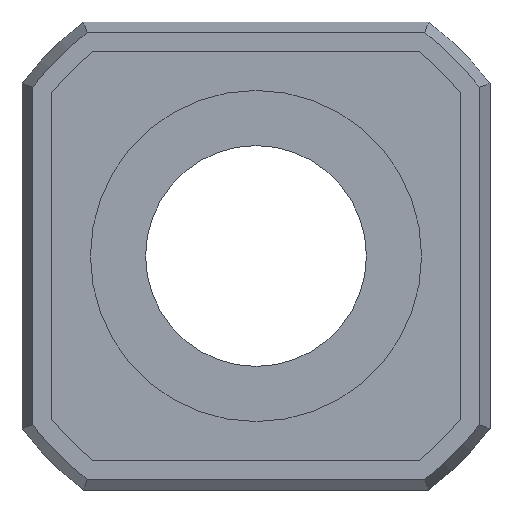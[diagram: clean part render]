
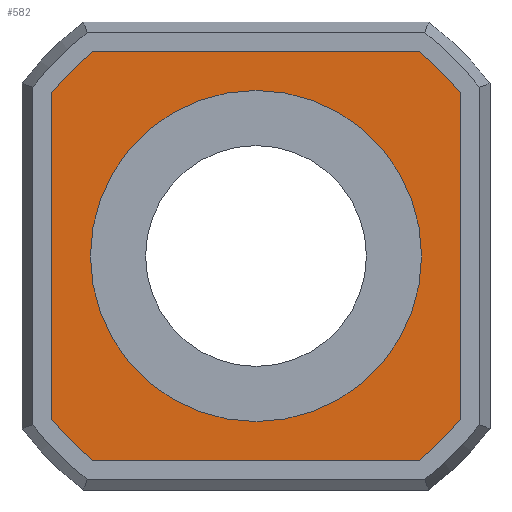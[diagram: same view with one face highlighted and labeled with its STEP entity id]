
A CAD part, front view. The second image highlights one B-rep face of the part: STEP entity #582.
In plain terms, the highlighted planar face has unit normal (0, -1, 0).
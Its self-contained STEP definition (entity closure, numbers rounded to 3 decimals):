
#33=FACE_BOUND('',#127,.T.);
#46=PLANE('',#669);
#88=FACE_OUTER_BOUND('',#126,.T.);
#126=EDGE_LOOP('',(#500,#501,#502,#503,#504,#505,#506,#507));
#127=EDGE_LOOP('',(#508));
#147=LINE('',#917,#183);
#155=LINE('',#953,#191);
#161=LINE('',#981,#197);
#164=LINE('',#994,#200);
#183=VECTOR('',#736,10.);
#191=VECTOR('',#762,10.);
#197=VECTOR('',#784,10.);
#200=VECTOR('',#803,10.);
#216=CIRCLE('',#625,4.25);
#219=CIRCLE('',#631,7.109);
#224=CIRCLE('',#641,7.109);
#228=CIRCLE('',#649,7.109);
#232=CIRCLE('',#658,7.109);
#248=VERTEX_POINT('',#878);
#253=VERTEX_POINT('',#896);
#255=VERTEX_POINT('',#899);
#260=VERTEX_POINT('',#915);
#266=VERTEX_POINT('',#937);
#270=VERTEX_POINT('',#951);
#274=VERTEX_POINT('',#965);
#278=VERTEX_POINT('',#979);
#280=VERTEX_POINT('',#990);
#304=EDGE_CURVE('',#248,#248,#216,.T.);
#310=EDGE_CURVE('',#255,#253,#219,.T.);
#318=EDGE_CURVE('',#253,#260,#147,.T.);
#327=EDGE_CURVE('',#260,#266,#224,.T.);
#333=EDGE_CURVE('',#266,#270,#155,.T.);
#339=EDGE_CURVE('',#270,#274,#228,.T.);
#345=EDGE_CURVE('',#274,#278,#161,.T.);
#351=EDGE_CURVE('',#278,#280,#232,.T.);
#352=EDGE_CURVE('',#280,#255,#164,.T.);
#500=ORIENTED_EDGE('',*,*,#310,.T.);
#501=ORIENTED_EDGE('',*,*,#318,.T.);
#502=ORIENTED_EDGE('',*,*,#327,.T.);
#503=ORIENTED_EDGE('',*,*,#333,.T.);
#504=ORIENTED_EDGE('',*,*,#339,.T.);
#505=ORIENTED_EDGE('',*,*,#345,.T.);
#506=ORIENTED_EDGE('',*,*,#351,.T.);
#507=ORIENTED_EDGE('',*,*,#352,.T.);
#508=ORIENTED_EDGE('',*,*,#304,.T.);
#582=ADVANCED_FACE('',(#88,#33),#46,.T.);
#625=AXIS2_PLACEMENT_3D('',#880,#710,#711);
#631=AXIS2_PLACEMENT_3D('',#900,#723,#724);
#641=AXIS2_PLACEMENT_3D('',#939,#752,#753);
#649=AXIS2_PLACEMENT_3D('',#967,#774,#775);
#658=AXIS2_PLACEMENT_3D('',#992,#799,#800);
#669=AXIS2_PLACEMENT_3D('',#1027,#830,#831);
#710=DIRECTION('center_axis',(0.,1.,0.));
#711=DIRECTION('ref_axis',(-1.,0.,0.));
#723=DIRECTION('center_axis',(0.,-1.,0.));
#724=DIRECTION('ref_axis',(0.805,0.,0.593));
#736=DIRECTION('',(1.,0.,0.));
#752=DIRECTION('center_axis',(0.,-1.,0.));
#753=DIRECTION('ref_axis',(-0.593,0.,0.805));
#762=DIRECTION('',(0.,0.,1.));
#774=DIRECTION('center_axis',(0.,-1.,0.));
#775=DIRECTION('ref_axis',(-1.,0.,0.));
#784=DIRECTION('',(-1.,0.,0.));
#799=DIRECTION('center_axis',(0.,-1.,0.));
#800=DIRECTION('ref_axis',(0.593,0.,-0.805));
#803=DIRECTION('',(0.,0.,-1.));
#830=DIRECTION('center_axis',(0.,-1.,0.));
#831=DIRECTION('ref_axis',(0.,0.,-1.));
#878=CARTESIAN_POINT('',(4.25,-4.,0.));
#880=CARTESIAN_POINT('Origin',(0.,-4.,0.));
#896=CARTESIAN_POINT('',(-4.419,-4.,-5.569));
#899=CARTESIAN_POINT('',(-5.569,-4.,-4.419));
#900=CARTESIAN_POINT('Origin',(0.,-4.,0.));
#915=CARTESIAN_POINT('',(4.419,-4.,-5.569));
#917=CARTESIAN_POINT('',(2.343,-4.,-5.569));
#937=CARTESIAN_POINT('',(5.569,-4.,-4.419));
#939=CARTESIAN_POINT('Origin',(0.,-4.,0.));
#951=CARTESIAN_POINT('',(5.569,-4.,4.419));
#953=CARTESIAN_POINT('',(5.569,-4.,2.343));
#965=CARTESIAN_POINT('',(4.419,-4.,5.569));
#967=CARTESIAN_POINT('Origin',(0.,-4.,0.));
#979=CARTESIAN_POINT('',(-4.419,-4.,5.569));
#981=CARTESIAN_POINT('',(-2.343,-4.,5.569));
#990=CARTESIAN_POINT('',(-5.569,-4.,4.419));
#992=CARTESIAN_POINT('Origin',(0.,-4.,0.));
#994=CARTESIAN_POINT('',(-5.569,-4.,-2.343));
#1027=CARTESIAN_POINT('Origin',(0.,-4.,0.));
